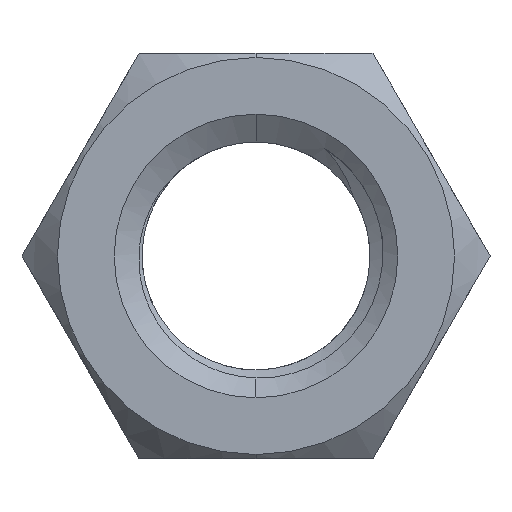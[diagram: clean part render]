
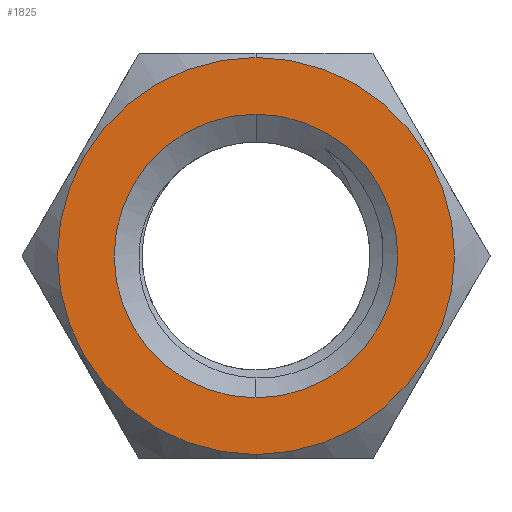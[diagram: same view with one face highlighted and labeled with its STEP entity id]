
A CAD part, front view. The second image highlights one B-rep face of the part: STEP entity #1825.
In plain terms, the highlighted planar face has unit normal (0, -1, 0).
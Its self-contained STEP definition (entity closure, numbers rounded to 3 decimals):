
#6 = CARTESIAN_POINT ( 'NONE',  ( 0., -2., 0. ) ) ;
#22 = CARTESIAN_POINT ( 'NONE',  ( 0., -2., -3.919 ) ) ;
#125 = VERTEX_POINT ( 'NONE', #322 ) ;
#322 = CARTESIAN_POINT ( 'NONE',  ( 0., -2., 2.8 ) ) ;
#343 = CARTESIAN_POINT ( 'NONE',  ( 0., -2., 0. ) ) ;
#427 = EDGE_LOOP ( 'NONE', ( #1925, #2408 ) ) ;
#467 = DIRECTION ( 'NONE',  ( 0., 0., -1. ) ) ;
#473 = EDGE_CURVE ( 'NONE', #125, #1088, #1652, .T. ) ;
#571 = AXIS2_PLACEMENT_3D ( 'NONE', #2148, #2322, #467 ) ;
#574 = AXIS2_PLACEMENT_3D ( 'NONE', #343, #711, #1103 ) ;
#699 = FACE_OUTER_BOUND ( 'NONE', #1201, .T. ) ;
#711 = DIRECTION ( 'NONE',  ( 0., -1., 0. ) ) ;
#749 = DIRECTION ( 'NONE',  ( 0., 0., -1. ) ) ;
#905 = AXIS2_PLACEMENT_3D ( 'NONE', #1830, #2382, #1472 ) ;
#983 = CIRCLE ( 'NONE', #571, 2.8 ) ;
#1028 = EDGE_CURVE ( 'NONE', #1088, #125, #983, .T. ) ;
#1082 = FACE_BOUND ( 'NONE', #427, .T. ) ;
#1088 = VERTEX_POINT ( 'NONE', #1112 ) ;
#1103 = DIRECTION ( 'NONE',  ( 0., 0., -1. ) ) ;
#1112 = CARTESIAN_POINT ( 'NONE',  ( 0., -2., -2.8 ) ) ;
#1172 = ORIENTED_EDGE ( 'NONE', *, *, #2312, .T. ) ;
#1201 = EDGE_LOOP ( 'NONE', ( #1607, #1172 ) ) ;
#1464 = CIRCLE ( 'NONE', #574, 3.919 ) ;
#1472 = DIRECTION ( 'NONE',  ( 0., 0., -1. ) ) ;
#1474 = DIRECTION ( 'NONE',  ( 0., 1., 0. ) ) ;
#1493 = CARTESIAN_POINT ( 'NONE',  ( 0., -2., 0. ) ) ;
#1607 = ORIENTED_EDGE ( 'NONE', *, *, #1981, .T. ) ;
#1652 = CIRCLE ( 'NONE', #905, 2.8 ) ;
#1684 = CARTESIAN_POINT ( 'NONE',  ( 0., -2., 3.919 ) ) ;
#1718 = DIRECTION ( 'NONE',  ( 0., -1., 0. ) ) ;
#1799 = VERTEX_POINT ( 'NONE', #1684 ) ;
#1825 = ADVANCED_FACE ( 'NONE', ( #1082, #699 ), #1852, .F. ) ;
#1830 = CARTESIAN_POINT ( 'NONE',  ( 0., -2., 0. ) ) ;
#1852 = PLANE ( 'NONE',  #2012 ) ;
#1925 = ORIENTED_EDGE ( 'NONE', *, *, #473, .F. ) ;
#1981 = EDGE_CURVE ( 'NONE', #1799, #2021, #2250, .T. ) ;
#2012 = AXIS2_PLACEMENT_3D ( 'NONE', #1493, #1474, #2055 ) ;
#2021 = VERTEX_POINT ( 'NONE', #22 ) ;
#2055 = DIRECTION ( 'NONE',  ( 0., 0., 1. ) ) ;
#2094 = AXIS2_PLACEMENT_3D ( 'NONE', #6, #1718, #749 ) ;
#2148 = CARTESIAN_POINT ( 'NONE',  ( 0., -2., 0. ) ) ;
#2250 = CIRCLE ( 'NONE', #2094, 3.919 ) ;
#2312 = EDGE_CURVE ( 'NONE', #2021, #1799, #1464, .T. ) ;
#2322 = DIRECTION ( 'NONE',  ( 0., -1., 0. ) ) ;
#2382 = DIRECTION ( 'NONE',  ( 0., -1., 0. ) ) ;
#2408 = ORIENTED_EDGE ( 'NONE', *, *, #1028, .F. ) ;
